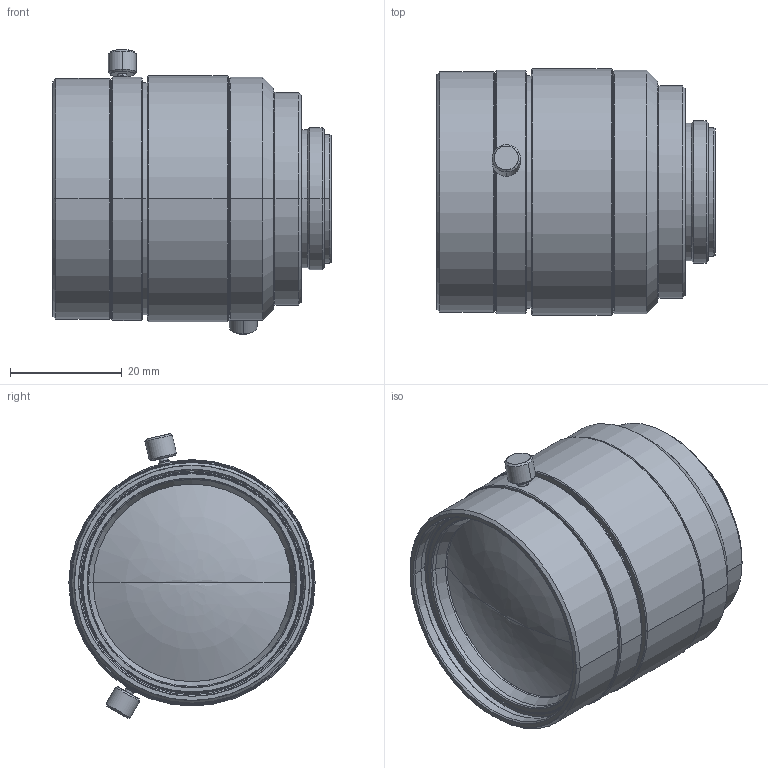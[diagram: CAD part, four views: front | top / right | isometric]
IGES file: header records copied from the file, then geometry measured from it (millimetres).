
Start section: SolidWorks IGES file using analytic representation for surfaces
Global section: file name: C:\Documents and Settings\Tsuji_vst\My Documents\図面\_3D\VS-5018H1.IGS,1; native system: 5HSolidWorks 2012; preprocessor: SolidWorks 2012; author: Tsuji_vst; date: 130404.113449; units: millimetre
Bounding box: 49.7 x 44 x 50.86 mm (x, y, z)
Surface area: 11239 mm2 (no closed solid volume)
Topology: 0 solids, 0 shells, 134 faces, 2468 edges, 2466 vertices
Faces by surface type: revolution 114, bspline 20
